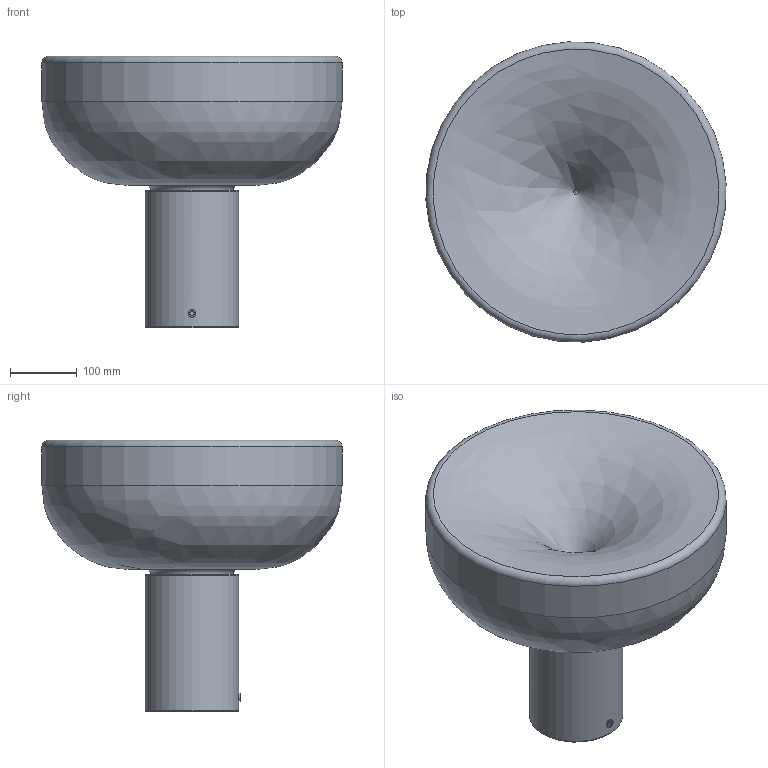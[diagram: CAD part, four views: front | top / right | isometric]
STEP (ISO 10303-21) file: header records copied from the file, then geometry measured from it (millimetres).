
FILE_DESCRIPTION(/* description */ ('AELLA TAVOLO T45'),/* implementation_level */ '2;1');
FILE_NAME(/* name */ '00500MT0LD0 - AELLA T45 - SEMPLIFICATA.stp',/* time_stamp */ '2023-05-03T12:22:17+02:00',/* author */ ('davide.turci'),/* organization */ (''),/* preprocessor_version */ 'ST-DEVELOPER v19.2',/* originating_system */ 'Autodesk Inventor 2023',/* authorisation */ '');
FILE_SCHEMA (('AUTOMOTIVE_DESIGN { 1 0 10303 214 3 1 1 }'));
Length unit declared in the file: millimetre
Products named in the file (14): 00500MT0LD0 - AELLA T45; 00500C018; 00500C018_1; PERNO A PRESSIONE M4 H30 TIPO SPECIALINSERT CP30 0 040 12; 00500C016; 00500C015; 00500C015_1; DISTANZIALE PRESSIONE M3 H8 FIL. PASS. TIPO SPECIALINSERT DP08 1 030 
12; 00500C011-A; 00500V002-A; 00500C007; B002; PIEDINO Ø8 H2.5 - STEAB 6500-8 - TIPO 3 - nero; VITE TESTA CILINDRICA STEAB 5074-05 M3X0,5 H6
Assembly tree (18 placements, depth 3):
  00500MT0LD0 - AELLA T45
    00500C018
      00500C018_1
      PERNO A PRESSIONE M4 H30 TIPO SPECIALINSERT CP30 0 040 12  x2
    00500C016
    00500C015
      00500C015_1
      DISTANZIALE PRESSIONE M3 H8 FIL. PASS. TIPO SPECIALINSERT DP08 1 030 
12  x2
    00500C011-A
    00500V002-A
    00500C007
    B002
    PIEDINO Ø8 H2.5 - STEAB 6500-8 - TIPO 3 - nero  x3
    VITE TESTA CILINDRICA STEAB 5074-05 M3X0,5 H6  x2
Bounding box: 449.26 x 449.26 x 406.49 mm (x, y, z)
Volume: 2916239 mm3; surface area: 1340481.2 mm2
Topology: 16 solids, 16 shells, 161 faces, 333 edges, 218 vertices
Faces by surface type: plane 71, cylinder 63, torus 15, cone 6, bspline 4, sphere 2
Full cylindrical faces by diameter (mm): 2.459 x2, 3 x2, 3.5 x6, 4 x4, 4.8 x3, 5 x3, 5.38 x2, 5.4 x2, 5.5 x2, 6 x2, 7 x1, 8 x3, 10 x1, 10.5 x3, 11.5 x2, 12 x1, 106 x1, 113 x1, 123 x1, 130 x1, 133 x1, 134 x1, 136 x1, 138 x1, 140 x2, 440 x1, 450 x1
Entity records: 4161 total; most frequent: CARTESIAN_POINT 739, DIRECTION 691, ORIENTED_EDGE 502, AXIS2_PLACEMENT_3D 298, EDGE_CURVE 251, EDGE_LOOP 171, VERTEX_POINT 166, CIRCLE 148
